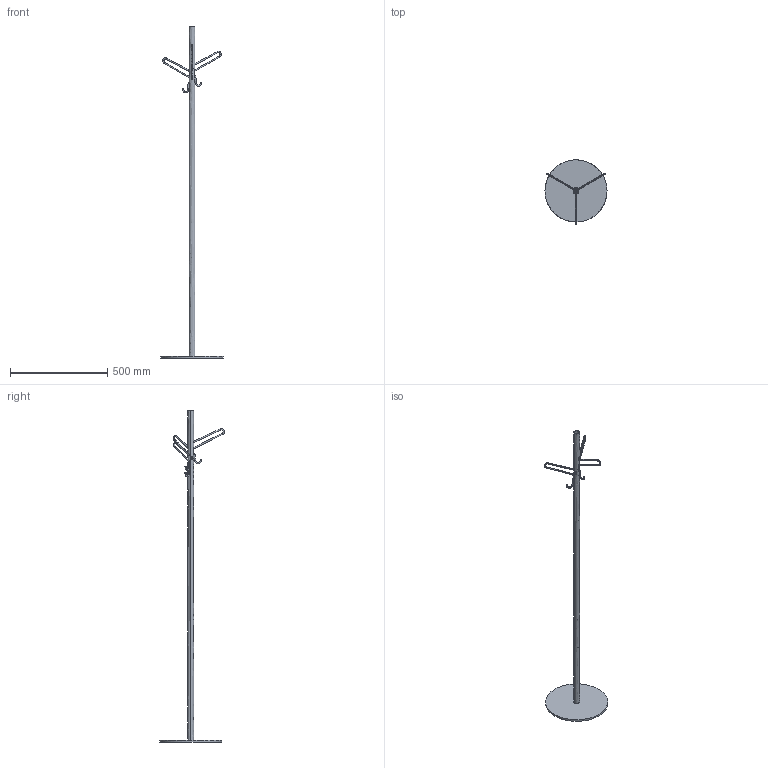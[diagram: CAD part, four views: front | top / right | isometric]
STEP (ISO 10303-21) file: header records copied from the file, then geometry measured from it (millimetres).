
FILE_DESCRIPTION(/* description */ (''),/* implementation_level */ '2;1');
FILE_NAME(/* name */ 'TIKI TERRA',/* time_stamp */ '2020-09-21T17:51:35+02:00',/* author */ (''),/* organization */ (''),/* preprocessor_version */ 'ST-DEVELOPER v10',/* originating_system */ '',/* authorisation */ '');
FILE_SCHEMA (('CONFIG_CONTROL_DESIGN'));
Length unit declared in the file: millimetre
Products named in the file (1): 1
Bounding box: 320 x 332.99 x 1710.08 mm (x, y, z)
Volume: 1149769.6 mm3; surface area: 499816 mm2
Topology: 5 solids, 5 shells, 124 faces, 270 edges, 156 vertices
Faces by surface type: bspline 102, plane 22
Entity records: 7572 total; most frequent: CARTESIAN_POINT 5964, ORIENTED_EDGE 540, EDGE_CURVE 270, VERTEX_POINT 156, EDGE_LOOP 144, ADVANCED_FACE 124, FACE_OUTER_BOUND 124, B_SPLINE_CURVE_WITH_KNOTS 64
